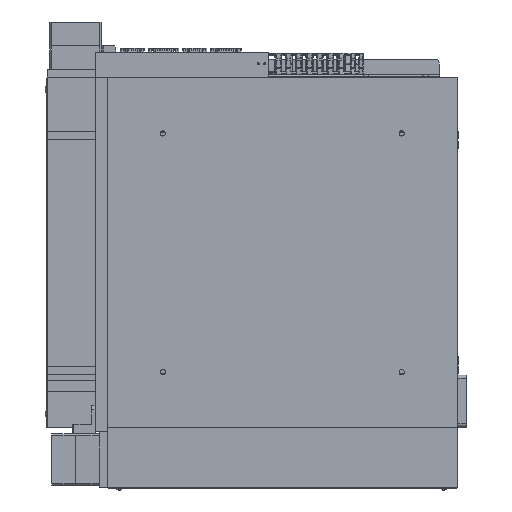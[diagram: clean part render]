
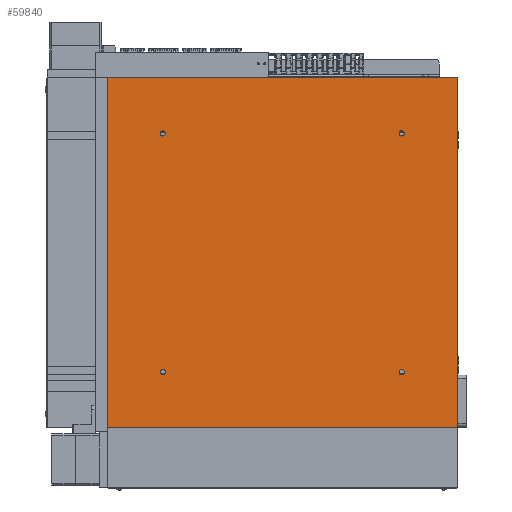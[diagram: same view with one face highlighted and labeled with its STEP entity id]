
A CAD part, front view. The second image highlights one B-rep face of the part: STEP entity #59840.
In plain terms, the highlighted planar face has unit normal (0, -1, 0).
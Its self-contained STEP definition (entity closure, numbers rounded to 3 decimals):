
#937 = VERTEX_POINT ( 'NONE', #67778 ) ;
#1280 = AXIS2_PLACEMENT_3D ( 'NONE', #20482, #93955, #79276 ) ;
#1710 = EDGE_CURVE ( 'NONE', #15823, #83295, #56377, .T. ) ;
#2219 = VECTOR ( 'NONE', #33491, 1000. ) ;
#2983 = VERTEX_POINT ( 'NONE', #79256 ) ;
#3264 = EDGE_LOOP ( 'NONE', ( #27205, #40380, #34132, #42123 ) ) ;
#4777 = AXIS2_PLACEMENT_3D ( 'NONE', #18474, #76605, #83974 ) ;
#5941 = VERTEX_POINT ( 'NONE', #12016 ) ;
#6550 = EDGE_LOOP ( 'NONE', ( #67325, #94337 ) ) ;
#6693 = EDGE_CURVE ( 'NONE', #85009, #5941, #57268, .T. ) ;
#7735 = DIRECTION ( 'NONE',  ( 0., 0., 1. ) ) ;
#8566 = AXIS2_PLACEMENT_3D ( 'NONE', #55891, #39953, #47615 ) ;
#12016 = CARTESIAN_POINT ( 'NONE',  ( -150., 0., -146.7 ) ) ;
#12692 = DIRECTION ( 'NONE',  ( 0., 1., 0. ) ) ;
#15051 = DIRECTION ( 'NONE',  ( -1., 0., 0. ) ) ;
#15074 = DIRECTION ( 'NONE',  ( 0., 0., 1. ) ) ;
#15823 = VERTEX_POINT ( 'NONE', #19544 ) ;
#16426 = DIRECTION ( 'NONE',  ( 0., 1., 0. ) ) ;
#16842 = FACE_BOUND ( 'NONE', #6550, .T. ) ;
#18474 = CARTESIAN_POINT ( 'NONE',  ( 150., 0., 150. ) ) ;
#18835 = DIRECTION ( 'NONE',  ( 0., 0., 1. ) ) ;
#19427 = CARTESIAN_POINT ( 'NONE',  ( 0., 0., 0. ) ) ;
#19544 = CARTESIAN_POINT ( 'NONE',  ( 220., 0., -220. ) ) ;
#20482 = CARTESIAN_POINT ( 'NONE',  ( -150., 0., 150. ) ) ;
#20749 = VERTEX_POINT ( 'NONE', #86189 ) ;
#22083 = DIRECTION ( 'NONE',  ( 0., 1., 0. ) ) ;
#23042 = CARTESIAN_POINT ( 'NONE',  ( -150., 0., 146.7 ) ) ;
#23796 = CARTESIAN_POINT ( 'NONE',  ( 150., 0., -146.7 ) ) ;
#25990 = FACE_OUTER_BOUND ( 'NONE', #3264, .T. ) ;
#26940 = VERTEX_POINT ( 'NONE', #23042 ) ;
#27205 = ORIENTED_EDGE ( 'NONE', *, *, #85997, .F. ) ;
#28609 = CIRCLE ( 'NONE', #50115, 3.3 ) ;
#29652 = ORIENTED_EDGE ( 'NONE', *, *, #69235, .T. ) ;
#29785 = DIRECTION ( 'NONE',  ( 0., 0., 1. ) ) ;
#31285 = VECTOR ( 'NONE', #15051, 1000. ) ;
#31340 = CARTESIAN_POINT ( 'NONE',  ( 150., 0., 146.7 ) ) ;
#32122 = VERTEX_POINT ( 'NONE', #49327 ) ;
#32458 = CARTESIAN_POINT ( 'NONE',  ( -150., 0., 153.3 ) ) ;
#33491 = DIRECTION ( 'NONE',  ( 0., 0., 1. ) ) ;
#34132 = ORIENTED_EDGE ( 'NONE', *, *, #45762, .F. ) ;
#34291 = ORIENTED_EDGE ( 'NONE', *, *, #93148, .T. ) ;
#34983 = CARTESIAN_POINT ( 'NONE',  ( -150., 0., -153.3 ) ) ;
#35239 = EDGE_CURVE ( 'NONE', #937, #32122, #72164, .T. ) ;
#36206 = FACE_BOUND ( 'NONE', #66228, .T. ) ;
#37038 = CARTESIAN_POINT ( 'NONE',  ( 150., 0., -150. ) ) ;
#37098 = CARTESIAN_POINT ( 'NONE',  ( -220., 0., 220. ) ) ;
#37404 = FACE_BOUND ( 'NONE', #91066, .T. ) ;
#38096 = CARTESIAN_POINT ( 'NONE',  ( -150., 0., -150. ) ) ;
#39420 = DIRECTION ( 'NONE',  ( 0., 0., 1. ) ) ;
#39953 = DIRECTION ( 'NONE',  ( 0., 1., 0. ) ) ;
#40243 = VERTEX_POINT ( 'NONE', #32458 ) ;
#40380 = ORIENTED_EDGE ( 'NONE', *, *, #1710, .F. ) ;
#41142 = CIRCLE ( 'NONE', #57521, 3.3 ) ;
#41663 = ORIENTED_EDGE ( 'NONE', *, *, #56310, .T. ) ;
#42075 = CARTESIAN_POINT ( 'NONE',  ( -220., 0., -220. ) ) ;
#42123 = ORIENTED_EDGE ( 'NONE', *, *, #35239, .F. ) ;
#45762 = EDGE_CURVE ( 'NONE', #32122, #15823, #65467, .T. ) ;
#47615 = DIRECTION ( 'NONE',  ( 0., 0., 1. ) ) ;
#49327 = CARTESIAN_POINT ( 'NONE',  ( 220., 0., 220. ) ) ;
#49840 = VERTEX_POINT ( 'NONE', #23796 ) ;
#50115 = AXIS2_PLACEMENT_3D ( 'NONE', #37038, #22083, #15074 ) ;
#51297 = EDGE_LOOP ( 'NONE', ( #34291, #92653 ) ) ;
#51379 = CIRCLE ( 'NONE', #74095, 3.3 ) ;
#51512 = DIRECTION ( 'NONE',  ( 0., 1., 0. ) ) ;
#52266 = CIRCLE ( 'NONE', #4777, 3.3 ) ;
#54362 = DIRECTION ( 'NONE',  ( 0., 0., -1. ) ) ;
#55891 = CARTESIAN_POINT ( 'NONE',  ( -150., 0., -150. ) ) ;
#56310 = EDGE_CURVE ( 'NONE', #2983, #49840, #41142, .T. ) ;
#56377 = LINE ( 'NONE', #89168, #31285 ) ;
#56947 = EDGE_CURVE ( 'NONE', #40243, #26940, #81656, .T. ) ;
#57268 = CIRCLE ( 'NONE', #82106, 3.3 ) ;
#57521 = AXIS2_PLACEMENT_3D ( 'NONE', #62057, #68496, #39420 ) ;
#59840 = ADVANCED_FACE ( 'NONE', ( #16842, #62519, #36206, #37404, #25990 ), #85861, .F. ) ;
#60866 = AXIS2_PLACEMENT_3D ( 'NONE', #19427, #12692, #92594 ) ;
#61901 = CIRCLE ( 'NONE', #87842, 3.3 ) ;
#62057 = CARTESIAN_POINT ( 'NONE',  ( 150., 0., -150. ) ) ;
#62519 = FACE_BOUND ( 'NONE', #51297, .T. ) ;
#63176 = DIRECTION ( 'NONE',  ( 0., 1., 0. ) ) ;
#65350 = EDGE_CURVE ( 'NONE', #20749, #72088, #61901, .T. ) ;
#65467 = LINE ( 'NONE', #91787, #74690 ) ;
#66228 = EDGE_LOOP ( 'NONE', ( #88890, #41663 ) ) ;
#67322 = CARTESIAN_POINT ( 'NONE',  ( -220., 0., -220. ) ) ;
#67325 = ORIENTED_EDGE ( 'NONE', *, *, #56947, .T. ) ;
#67778 = CARTESIAN_POINT ( 'NONE',  ( -220., 0., 220. ) ) ;
#68496 = DIRECTION ( 'NONE',  ( 0., 1., 0. ) ) ;
#69235 = EDGE_CURVE ( 'NONE', #72088, #20749, #52266, .T. ) ;
#72088 = VERTEX_POINT ( 'NONE', #31340 ) ;
#72164 = LINE ( 'NONE', #37098, #89348 ) ;
#73106 = LINE ( 'NONE', #42075, #2219 ) ;
#73617 = ORIENTED_EDGE ( 'NONE', *, *, #65350, .T. ) ;
#74095 = AXIS2_PLACEMENT_3D ( 'NONE', #87621, #51512, #7735 ) ;
#74518 = DIRECTION ( 'NONE',  ( 1., 0., 0. ) ) ;
#74690 = VECTOR ( 'NONE', #54362, 1000. ) ;
#76605 = DIRECTION ( 'NONE',  ( 0., 1., 0. ) ) ;
#79256 = CARTESIAN_POINT ( 'NONE',  ( 150., 0., -153.3 ) ) ;
#79276 = DIRECTION ( 'NONE',  ( 0., 0., 1. ) ) ;
#80263 = EDGE_CURVE ( 'NONE', #26940, #40243, #51379, .T. ) ;
#81656 = CIRCLE ( 'NONE', #1280, 3.3 ) ;
#82106 = AXIS2_PLACEMENT_3D ( 'NONE', #38096, #16426, #29785 ) ;
#83295 = VERTEX_POINT ( 'NONE', #67322 ) ;
#83974 = DIRECTION ( 'NONE',  ( 0., 0., 1. ) ) ;
#84682 = CIRCLE ( 'NONE', #8566, 3.3 ) ;
#85009 = VERTEX_POINT ( 'NONE', #34983 ) ;
#85711 = EDGE_CURVE ( 'NONE', #49840, #2983, #28609, .T. ) ;
#85861 = PLANE ( 'NONE',  #60866 ) ;
#85997 = EDGE_CURVE ( 'NONE', #83295, #937, #73106, .T. ) ;
#86189 = CARTESIAN_POINT ( 'NONE',  ( 150., 0., 153.3 ) ) ;
#87621 = CARTESIAN_POINT ( 'NONE',  ( -150., 0., 150. ) ) ;
#87842 = AXIS2_PLACEMENT_3D ( 'NONE', #91716, #63176, #18835 ) ;
#88890 = ORIENTED_EDGE ( 'NONE', *, *, #85711, .T. ) ;
#89168 = CARTESIAN_POINT ( 'NONE',  ( -220., 0., -220. ) ) ;
#89348 = VECTOR ( 'NONE', #74518, 1000. ) ;
#91066 = EDGE_LOOP ( 'NONE', ( #73617, #29652 ) ) ;
#91716 = CARTESIAN_POINT ( 'NONE',  ( 150., 0., 150. ) ) ;
#91787 = CARTESIAN_POINT ( 'NONE',  ( 220., 0., -220. ) ) ;
#92594 = DIRECTION ( 'NONE',  ( 0., 0., 1. ) ) ;
#92653 = ORIENTED_EDGE ( 'NONE', *, *, #6693, .T. ) ;
#93148 = EDGE_CURVE ( 'NONE', #5941, #85009, #84682, .T. ) ;
#93955 = DIRECTION ( 'NONE',  ( 0., 1., 0. ) ) ;
#94337 = ORIENTED_EDGE ( 'NONE', *, *, #80263, .T. ) ;
